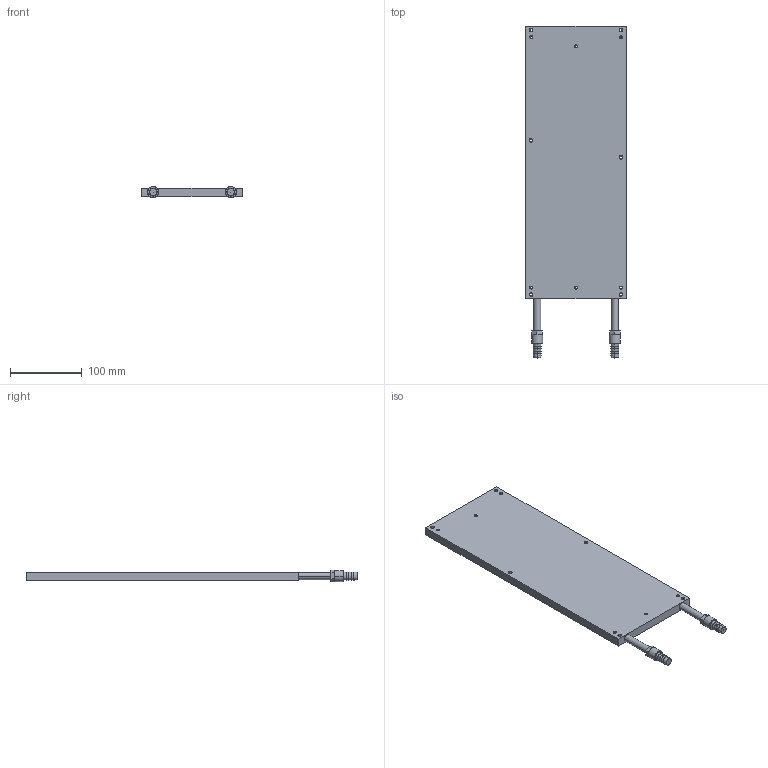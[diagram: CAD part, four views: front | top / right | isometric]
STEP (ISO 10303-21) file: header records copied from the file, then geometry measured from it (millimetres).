
FILE_DESCRIPTION(('Creo Elements/Direct Modeling STEP Export'),'2;1');
FILE_NAME('HS-656.stp','2020-06-03T17:27:49',(''),(''),'PTC Creo Elements/Direct Modeling STEP processor for AP214 (Solid Model)','PTC Creo Elements/Direct Modeling 19.0 09-May-2014 (C) Parametric Technology GmbH','');
FILE_SCHEMA(('AUTOMOTIVE_DESIGN { 1 0 10303 214 1 1 1 1 }'));
Length unit declared in the file: millimetre
Products named in the file (2): 水冷板
Assembly tree (1 placements, depth 2):
  水冷板
    水冷板
Bounding box: 140 x 462.7 x 16.14 mm (x, y, z)
Volume: 653372.8 mm3; surface area: 126648 mm2
Topology: 1 solids, 1 shells, 150 faces, 356 edges, 224 vertices
Faces by surface type: cone 60, plane 58, cylinder 32
Entity records: 3753 total; most frequent: ORIENTED_EDGE 712, CARTESIAN_POINT 584, DIRECTION 568, EDGE_CURVE 356, VERTEX_POINT 224, AXIS2_PLACEMENT_3D 208, EDGE_LOOP 190, VECTOR 152
